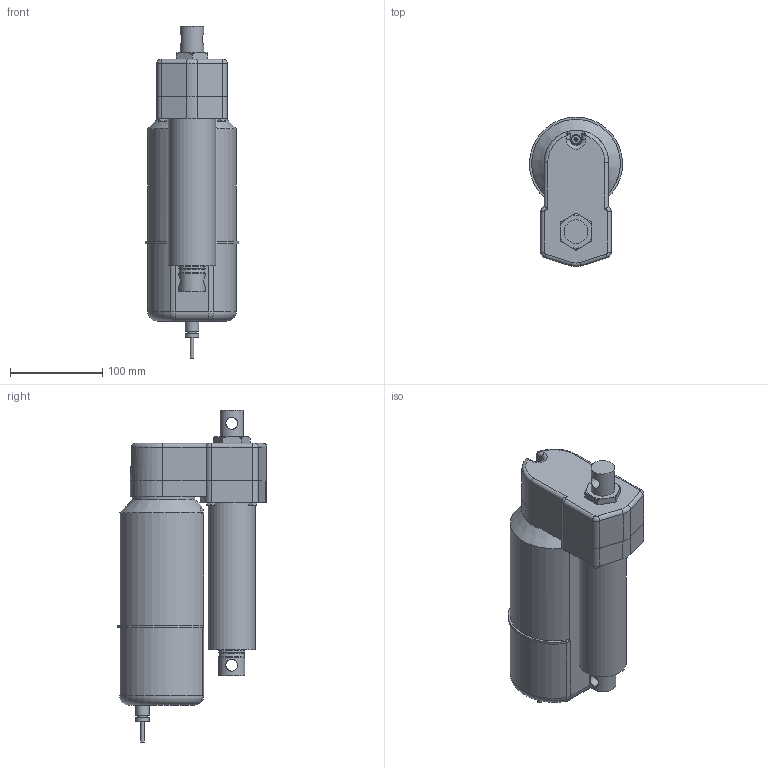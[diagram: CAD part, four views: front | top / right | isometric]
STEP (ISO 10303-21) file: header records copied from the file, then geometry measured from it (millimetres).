
FILE_DESCRIPTION (( 'STEP AP214' ), '1' );
FILE_NAME ('A22-05A5-04M0N-tollo.step', '2020-04-05T11:58:06', ( '' ), ( '' ), 'SwSTEP 2.0', 'SolidWorks 2010', '' );
FILE_SCHEMA (( 'AUTOMOTIVE_DESIGN' ));
Length unit declared in the file: millimetre
Products named in the file (7): Electrak-LA5-Motor-A22-05A5-04M0N-tollo_Electrak-LA5-Motor-A22-05A5-04M0N-tollo; Electrak-LA5-Rear-A22-05A5-04M0N-tollo_Electrak-LA5-Rear-A22-05A5-04M0N-tollo; Electrak-LA5-Tube-A22-05A5-04M0N-tollo_Electrak-LA5-Tube-A22-05A5-04M0N-tollo; Electrak-LA5-Rod-A22-05A5-04M0N-tollo_Electrak-LA5-Rod-A22-05A5-04M0N-tollo; Screw-MFX-H-M5-A22-05A5-04M0N-tollo_Screw-MFX-H-M5-A22-05A5-04M0N-tollo; Screw-M6S-M5-A22-05A5-04M0N-tollo_Screw-M6S-M5-A22-05A5-04M0N-tollo; A22-05A5-04M0N-tollo
Assembly tree (9 placements, depth 2):
  A22-05A5-04M0N-tollo
    Electrak-LA5-Rear-A22-05A5-04M0N-tollo_Electrak-LA5-Rear-A22-05A5-04M0N-tollo
    Screw-MFX-H-M5-A22-05A5-04M0N-tollo_Screw-MFX-H-M5-A22-05A5-04M0N-tollo
    Screw-M6S-M5-A22-05A5-04M0N-tollo_Screw-M6S-M5-A22-05A5-04M0N-tollo  x4
    Electrak-LA5-Rod-A22-05A5-04M0N-tollo_Electrak-LA5-Rod-A22-05A5-04M0N-tollo
    Electrak-LA5-Motor-A22-05A5-04M0N-tollo_Electrak-LA5-Motor-A22-05A5-04M0N-tollo
    Electrak-LA5-Tube-A22-05A5-04M0N-tollo_Electrak-LA5-Tube-A22-05A5-04M0N-tollo
Bounding box: 100.99 x 162.5 x 360.1 mm (x, y, z)
Volume: 2508057.6 mm3; surface area: 205785.5 mm2
Topology: 9 solids, 9 shells, 238 faces, 549 edges, 347 vertices
Faces by surface type: plane 95, cylinder 92, cone 31, torus 15, bspline 3, sphere 2
Full cylindrical faces by diameter (mm): 4 x1, 4.126 x5, 4.8 x2, 5 x13, 7.878 x4, 9.3 x1, 10 x1, 12.8 x2, 15 x2, 25.4 x1, 28.6 x4, 51.3 x1, 68 x1
Entity records: 5776 total; most frequent: CARTESIAN_POINT 1721, DIRECTION 806, ORIENTED_EDGE 666, AXIS2_PLACEMENT_3D 339, EDGE_CURVE 333, EDGE_LOOP 245, VERTEX_POINT 236, FACE_OUTER_BOUND 198
